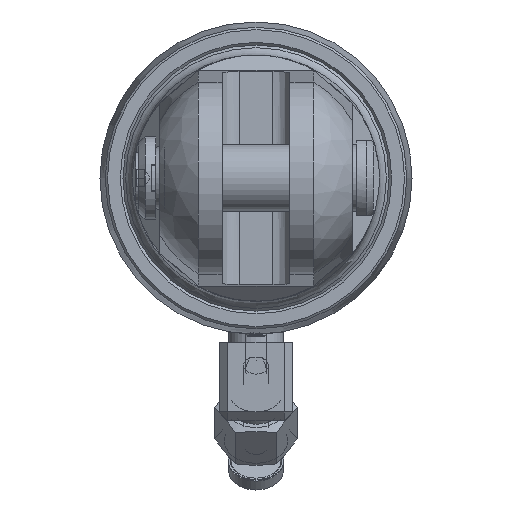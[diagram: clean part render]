
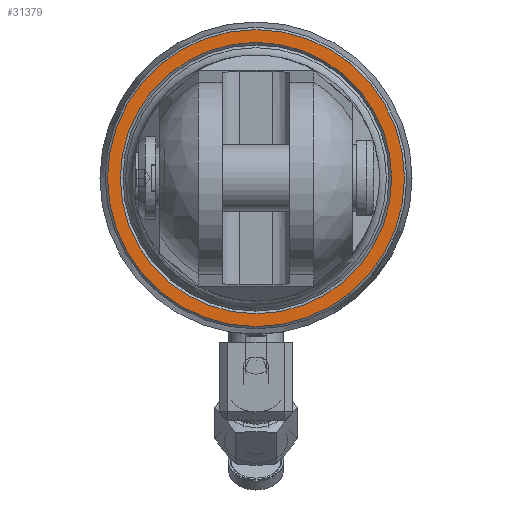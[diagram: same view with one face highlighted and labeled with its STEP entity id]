
A CAD part, left-side view. The second image highlights one B-rep face of the part: STEP entity #31379.
In plain terms, the highlighted planar face has unit normal (-1, 0, 0).
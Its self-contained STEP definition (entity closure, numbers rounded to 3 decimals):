
#2052=FACE_BOUND('',#6994,.T.);
#5235=FACE_OUTER_BOUND('',#6993,.T.);
#6993=EDGE_LOOP('',(#28330));
#6994=EDGE_LOOP('',(#28331));
#7365=CIRCLE('',#32676,35.288);
#7366=CIRCLE('',#32679,32.25);
#15728=VERTEX_POINT('',#57655);
#15729=VERTEX_POINT('',#57661);
#19966=EDGE_CURVE('',#15728,#15728,#7365,.T.);
#19968=EDGE_CURVE('',#15729,#15729,#7366,.T.);
#28330=ORIENTED_EDGE('',*,*,#19966,.F.);
#28331=ORIENTED_EDGE('',*,*,#19968,.F.);
#29810=PLANE('',#32678);
#31379=ADVANCED_FACE('',(#5235,#2052),#29810,.T.);
#32676=AXIS2_PLACEMENT_3D('',#57657,#37777,#37778);
#32678=AXIS2_PLACEMENT_3D('',#57660,#37782,#37783);
#32679=AXIS2_PLACEMENT_3D('',#57662,#37784,#37785);
#37777=DIRECTION('center_axis',(1.,0.,0.));
#37778=DIRECTION('ref_axis',(0.,-1.,0.));
#37782=DIRECTION('center_axis',(-1.,0.,0.));
#37783=DIRECTION('ref_axis',(0.,0.,1.));
#37784=DIRECTION('center_axis',(-1.,0.,0.));
#37785=DIRECTION('ref_axis',(0.,1.,0.));
#57655=CARTESIAN_POINT('',(0.,35.288,0.));
#57657=CARTESIAN_POINT('Origin',(0.,0.,0.));
#57660=CARTESIAN_POINT('Origin',(0.,0.,0.));
#57661=CARTESIAN_POINT('',(0.,-32.25,0.));
#57662=CARTESIAN_POINT('Origin',(0.,0.,0.));
